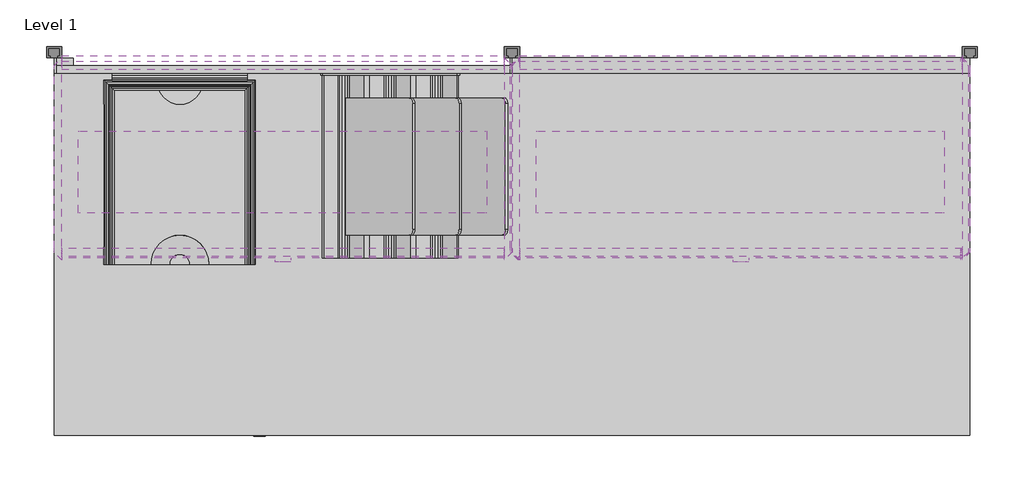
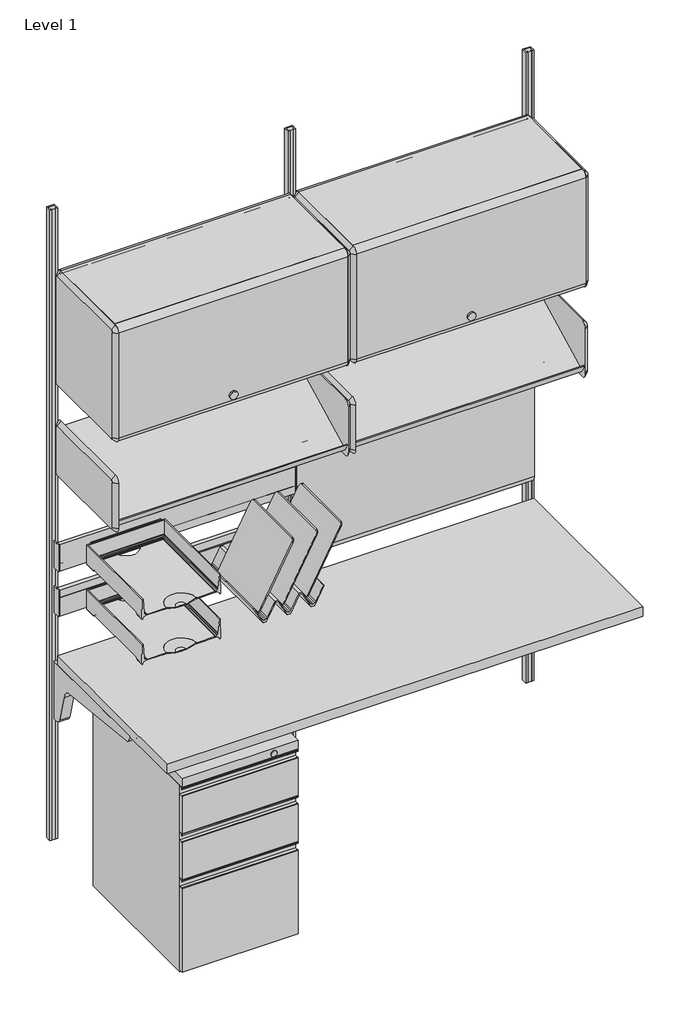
# One storey, incomplete: 17 furniture elements, 2 light fixtures.
"""IFC4 building model written with IfcOpenShell, lengths in millimetres."""

from ifc_helpers import new_model, si_unit, origin, place, context, project, spatial, transform, mapped, element, save
from components import furniture_ba537c3b, furniture_494cc3b8, furniture_f058e72c, furniture_cd2e4540, furniture_02a821be, furniture_e3423f84, furniture_a96273da, furniture_f03510d4, furniture_69a8165b, furniture_48dc0a6c, furniture_10db817a, furniture_ea425779, light_fixture_30w_for_action_office_7462b566

model = new_model("IFC4")

# Units and contexts
model_context = context("Model", 3, world=origin())
ifc_project = project(units=[si_unit("LENGTHUNIT", "METRE", prefix="MILLI")], contexts=[model_context])

# Site, building, storey
site = spatial("IfcSite", under=ifc_project)
building = spatial("IfcBuilding", under=site)
storey = spatial("IfcBuildingStorey", under=building, Name="Level 1", Elevation=0.0)

# Furniture
placement = place(None, origin())
furniture_shape = furniture_ba537c3b(model_context)
element("IfcFurniture", 1, ObjectType="HermanMiller_ThrivePortfolio_Y7216_PaperTray : 3\"H x 12\"D x 10\"W", at=placement, inside=storey, context=model_context, shape_type="MappedRepresentation", body=[
    mapped(furniture_shape, transform((208.9404, -209.0405855, 0.0), x_axis=(1.0, 0.0, 0.0), y_axis=(0.0, 1.0, 0.0), z_axis=(0.0, 0.0, 1.0))),
])
furniture_2_shape = furniture_494cc3b8(model_context)
element("IfcFurniture", 2, ObjectType="HermanMiller_ThrivePortfolio_Y7218_DiagonalTray : 8 1/2\"H x 12\"D x 13\"W", at=placement, inside=storey, context=model_context, shape_type="MappedRepresentation", body=[
    mapped(furniture_2_shape, transform((559.483017, -198.3613, 0.0), x_axis=(1.0, 0.0, 0.0), y_axis=(0.0, 1.0, 0.0), z_axis=(0.0, 0.0, 1.0))),
])
furniture_3_shape = furniture_f058e72c(model_context)
element("IfcFurniture", 3, ObjectType="HermanMiller_ThrivePortfolio_Y7216_PaperTray : 3\"H x 12\"D x 10\"W", at=placement, inside=storey, context=model_context, shape_type="MappedRepresentation", body=[
    mapped(furniture_3_shape, transform((208.9404, -209.0405855, 0.0), x_axis=(1.0, 0.0, 0.0), y_axis=(0.0, 1.0, 0.0), z_axis=(0.0, 0.0, 1.0))),
])
furniture_4_shape = furniture_cd2e4540(model_context)
element("IfcFurniture", 4, ObjectType="HermanMiller_ActionOffice_A3610_ToolBar : 4\"H x 30\"W", at=placement, inside=storey, context=model_context, shape_type="MappedRepresentation", body=[
    mapped(furniture_4_shape, transform((381.0, -31.7499996, 0.0), x_axis=(1.0, 0.0, 0.0), y_axis=(0.0, 1.0, 0.0), z_axis=(0.0, 0.0, 1.0))),
])
furniture_5_shape = furniture_02a821be(model_context)
element("IfcFurniture", 5, ObjectType="HermanMiller_ActionOffice_A3410_B-StyleTackboard : 16\"H x 30\"W", at=placement, inside=storey, context=model_context, shape_type="MappedRepresentation", body=[
    mapped(furniture_5_shape, transform((1143.0, -31.75, 0.0), x_axis=(1.0, 0.0, 0.0), y_axis=(0.0, 1.0, 0.0), z_axis=(0.0, 0.0, 1.0))),
])
furniture_6_shape = furniture_e3423f84(model_context)
element("IfcFurniture", 6, ObjectType="HermanMiller_ActionOffice_A3220_B-StyleStorageDisplay : Display 13\"D x 30\"W", at=placement, inside=storey, context=model_context, shape_type="MappedRepresentation", body=[
    mapped(furniture_6_shape, transform((1264.2673845, -200.025, 0.0), x_axis=(1.0, 0.0, 0.0), y_axis=(0.0, 1.0, 0.0), z_axis=(0.0, 0.0, 1.0))),
])
element("IfcFurniture", 7, ObjectType="HermanMiller_ActionOffice_A3220_B-StyleStorageDisplay : Display 13\"D x 30\"W", at=placement, inside=storey, context=model_context, shape_type="MappedRepresentation", body=[
    mapped(furniture_6_shape, transform((504.9420045, -200.025, 0.0), x_axis=(1.0, 0.0, 0.0), y_axis=(0.0, 1.0, 0.0), z_axis=(0.0, 0.0, 1.0))),
])
furniture_7_shape = furniture_a96273da(model_context)
element("IfcFurniture", 8, ObjectType="HermanMiller_ActionOffice_A2310_Sq-EdgeRectangularWorkSurface : 24\"D x 60\"W", at=placement, inside=storey, context=model_context, shape_type="MappedRepresentation", body=[
    mapped(furniture_7_shape, transform((762.0, -333.375, 0.0), x_axis=(1.0, 0.0, 0.0), y_axis=(0.0, 1.0, 0.0), z_axis=(0.0, 0.0, 1.0))),
])
furniture_8_shape = furniture_f03510d4(model_context)
element("IfcFurniture", 9, ObjectType="HermanMiller_ActionOffice_A3610_ToolBar : 4\"H x 30\"W", at=placement, inside=storey, context=model_context, shape_type="MappedRepresentation", body=[
    mapped(furniture_8_shape, transform((381.0, -31.7499996, 0.0), x_axis=(1.0, 0.0, 0.0), y_axis=(0.0, 1.0, 0.0), z_axis=(0.0, 0.0, 1.0))),
])
furniture_9_shape = furniture_69a8165b(model_context)
element("IfcFurniture", 10, ObjectType="HermanMiller_TuStorage_LW100_W-PullFreestandingPedestal : 20D BBF Standard Hgt", at=placement, inside=storey, context=model_context, shape_type="MappedRepresentation", body=[
    mapped(furniture_9_shape, transform((233.6673, -400.05, 0.0), x_axis=(1.0, 0.0, 0.0), y_axis=(0.0, 1.0, 0.0), z_axis=(0.0, 0.0, 1.0))),
])
furniture_10_shape = furniture_48dc0a6c(model_context)
element("IfcFurniture", 11, ObjectType="HermanMiller_ActionOffice_B-StyleFlipperDoor : Paint 15-1/2H x 13D x 30W", at=placement, inside=storey, context=model_context, shape_type="MappedRepresentation", body=[
    mapped(furniture_10_shape, transform((381.0, -196.7738, 457.2), x_axis=(1.0, 0.0, 0.0), y_axis=(0.0, 1.0, 0.0), z_axis=(0.0, 0.0, 1.0))),
])
element("IfcFurniture", 12, ObjectType="HermanMiller_ActionOffice_B-StyleFlipperDoor : Paint 15-1/2H x 13D x 30W", at=placement, inside=storey, context=model_context, shape_type="MappedRepresentation", body=[
    mapped(furniture_10_shape, transform((1143.0, -196.7738, 457.2), x_axis=(1.0, 0.0, 0.0), y_axis=(0.0, 1.0, 0.0), z_axis=(0.0, 0.0, 1.0))),
])
furniture_11_shape = furniture_10db817a(model_context)
element("IfcFurniture", 13, ObjectType="HermanMiller_CoStruc_B-StyleShelf : 15-1/2H x 13D x 30W", at=placement, inside=storey, context=model_context, shape_type="MappedRepresentation", body=[
    mapped(furniture_11_shape, transform((504.9420045, -200.025, 457.2), x_axis=(1.0, 0.0, 0.0), y_axis=(0.0, 1.0, 0.0), z_axis=(0.0, 0.0, 1.0))),
])
element("IfcFurniture", 14, ObjectType="HermanMiller_CoStruc_B-StyleShelf : 15-1/2H x 13D x 30W", at=placement, inside=storey, context=model_context, shape_type="MappedRepresentation", body=[
    mapped(furniture_11_shape, transform((1266.9420045, -200.025, 457.2), x_axis=(1.0, 0.0, 0.0), y_axis=(0.0, 1.0, 0.0), z_axis=(0.0, 0.0, 1.0))),
])
furniture_12_shape = furniture_ea425779(model_context)
element("IfcFurniture", 15, ObjectType="HermanMiller_ActionOffice_AO213_WallStrip : 84\"H", at=placement, inside=storey, context=model_context, shape_type="MappedRepresentation", body=[
    mapped(furniture_12_shape, transform((1524.0, 0.0, 0.0), x_axis=(1.0, 0.0, 0.0), y_axis=(0.0, 1.0, 0.0), z_axis=(0.0, 0.0, 1.0))),
])
element("IfcFurniture", 16, ObjectType="HermanMiller_ActionOffice_AO213_WallStrip : 84\"H", at=placement, inside=storey, context=model_context, shape_type="MappedRepresentation", body=[
    mapped(furniture_12_shape, transform((762.0, 0.0, 0.0), x_axis=(1.0, 0.0, 0.0), y_axis=(0.0, 1.0, 0.0), z_axis=(0.0, 0.0, 1.0))),
])
element("IfcFurniture", 17, ObjectType="HermanMiller_ActionOffice_AO213_WallStrip : 84\"H", at=placement, inside=storey, context=model_context, shape_type="MappedRepresentation", body=[
    mapped(furniture_12_shape, transform((0.0, 0.0, 0.0), x_axis=(1.0, 0.0, 0.0), y_axis=(0.0, 1.0, 0.0), z_axis=(0.0, 0.0, 1.0))),
])

# Light fixtures
light_fixture_30w_for_action_office_shape = light_fixture_30w_for_action_office_7462b566(model_context)
element("IfcLightFixture", 18, ObjectType="HermanMiller_SupplementalProducts_G6170_EUnderShelfLEDTaskLight : 30W for Action Office", at=placement, inside=storey, context=model_context, shape_type="MappedRepresentation", body=[
    mapped(light_fixture_30w_for_action_office_shape, transform((379.91288, -209.55, 124.8679666), x_axis=(1.0, 0.0, 0.0), y_axis=(0.0, 1.0, 0.0), z_axis=(0.0, 0.0, 1.0))),
])
element("IfcLightFixture", 19, ObjectType="HermanMiller_SupplementalProducts_G6170_EUnderShelfLEDTaskLight : 30W for Action Office", at=placement, inside=storey, context=model_context, shape_type="MappedRepresentation", body=[
    mapped(light_fixture_30w_for_action_office_shape, transform((1141.91288, -209.55, 124.8679666), x_axis=(1.0, 0.0, 0.0), y_axis=(0.0, 1.0, 0.0), z_axis=(0.0, 0.0, 1.0))),
])

save(model, "model.ifc")
